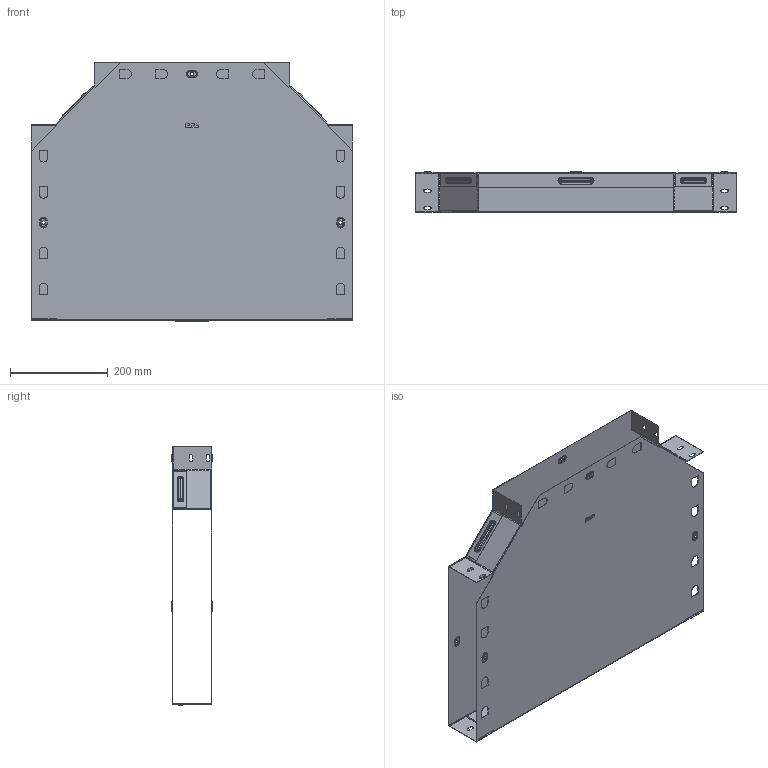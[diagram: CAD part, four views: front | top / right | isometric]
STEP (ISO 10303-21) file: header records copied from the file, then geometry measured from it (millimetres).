
FILE_DESCRIPTION (( 'STEP AP214' ), '1' );
FILE_NAME ('t8040008_捘.STEP', '2019-06-10T08:11:39', ( '砐錪賧瘔蠈錪 Windows' ), ( '' ), 'SwSTEP 2.0', 'SolidWorks 2018', '' );
FILE_SCHEMA (( 'AUTOMOTIVE_DESIGN' ));
Length unit declared in the file: millimetre
Products named in the file (1): t8040008_捘
Bounding box: 656.4 x 83.8 x 531 mm (x, y, z)
Volume: 587403.5 mm3; surface area: 1474902.5 mm2
Topology: 2 solids, 2 shells, 768 faces, 2196 edges, 1428 vertices
Faces by surface type: plane 430, cylinder 224, torus 96, bspline 18
Entity records: 26205 total; most frequent: CARTESIAN_POINT 5473, ORIENTED_EDGE 4392, DIRECTION 4254, EDGE_CURVE 2196, VECTOR 1568, LINE 1568, VERTEX_POINT 1428, AXIS2_PLACEMENT_3D 1343
